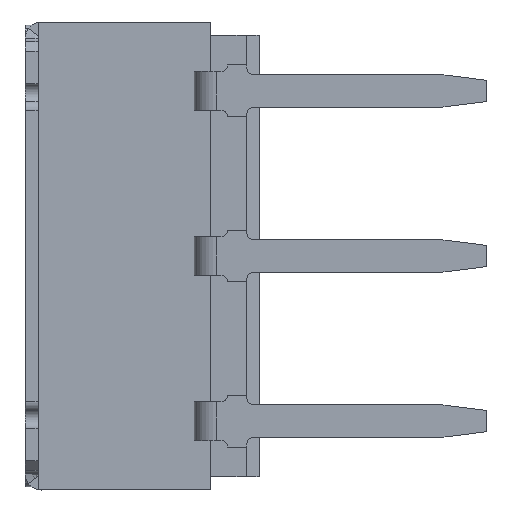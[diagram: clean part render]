
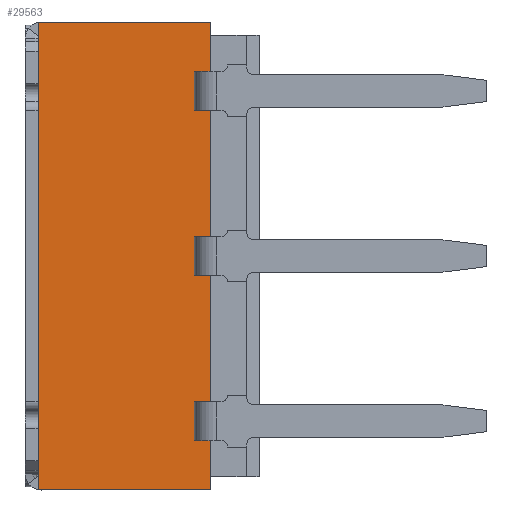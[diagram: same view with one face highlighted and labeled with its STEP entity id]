
A CAD part, left-side view. The second image highlights one B-rep face of the part: STEP entity #29563.
In plain terms, the highlighted planar face has unit normal (-1, 0, 0).
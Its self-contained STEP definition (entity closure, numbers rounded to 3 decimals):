
#110 = ORIENTED_EDGE ( 'NONE', *, *, #33861, .T. ) ;
#269 = CARTESIAN_POINT ( 'NONE',  ( -3.6, 1., -2.24 ) ) ;
#379 = CARTESIAN_POINT ( 'NONE',  ( -3.6, 1., -1.8 ) ) ;
#585 = CARTESIAN_POINT ( 'NONE',  ( -3.6, 0.75, -2.24 ) ) ;
#594 = DIRECTION ( 'NONE',  ( 0., 0., -1. ) ) ;
#2546 = VERTEX_POINT ( 'NONE', #9393 ) ;
#2648 = EDGE_LOOP ( 'NONE', ( #36279, #33815, #20111, #35382, #18026, #28236, #11735, #19723, #16446, #3330, #32899, #110, #3538, #23164, #2677, #14545 ) ) ;
#2677 = ORIENTED_EDGE ( 'NONE', *, *, #8112, .F. ) ;
#2823 = EDGE_CURVE ( 'NONE', #6166, #30579, #12902, .T. ) ;
#3185 = CARTESIAN_POINT ( 'NONE',  ( -3.6, 4.42, -3.6 ) ) ;
#3330 = ORIENTED_EDGE ( 'NONE', *, *, #7461, .T. ) ;
#3538 = ORIENTED_EDGE ( 'NONE', *, *, #2823, .F. ) ;
#3704 = LINE ( 'NONE', #20046, #33484 ) ;
#3772 = VECTOR ( 'NONE', #11943, 1000. ) ;
#4023 = LINE ( 'NONE', #14933, #35599 ) ;
#4171 = CARTESIAN_POINT ( 'NONE',  ( -3.6, 0.75, -3.6 ) ) ;
#4431 = CARTESIAN_POINT ( 'NONE',  ( -3.6, 3.4, 3.4 ) ) ;
#4963 = EDGE_CURVE ( 'NONE', #30320, #7170, #3704, .T. ) ;
#5022 = DIRECTION ( 'NONE',  ( 0., 0., -1. ) ) ;
#5363 = CARTESIAN_POINT ( 'NONE',  ( -3.6, 0., -2.84 ) ) ;
#5417 = CARTESIAN_POINT ( 'NONE',  ( -3.6, 4.42, 3.6 ) ) ;
#5536 = DIRECTION ( 'NONE',  ( 0., 0., -1. ) ) ;
#5885 = VECTOR ( 'NONE', #12683, 1000. ) ;
#6036 = DIRECTION ( 'NONE',  ( 0., -1., 0. ) ) ;
#6166 = VERTEX_POINT ( 'NONE', #28271 ) ;
#6664 = VECTOR ( 'NONE', #18500, 1000. ) ;
#6777 = DIRECTION ( 'NONE',  ( 0., -1., 0. ) ) ;
#6802 = EDGE_CURVE ( 'NONE', #27684, #29149, #36172, .T. ) ;
#7170 = VERTEX_POINT ( 'NONE', #27537 ) ;
#7414 = EDGE_CURVE ( 'NONE', #31772, #7170, #37065, .T. ) ;
#7461 = EDGE_CURVE ( 'NONE', #12146, #22779, #11256, .T. ) ;
#7533 = CARTESIAN_POINT ( 'NONE',  ( -3.6, 1., -2.84 ) ) ;
#7596 = CARTESIAN_POINT ( 'NONE',  ( -3.6, 3.4, 3.6 ) ) ;
#8112 = EDGE_CURVE ( 'NONE', #16851, #13673, #8127, .T. ) ;
#8127 = LINE ( 'NONE', #31117, #18939 ) ;
#8251 = DIRECTION ( 'NONE',  ( 0., 1., 0. ) ) ;
#8272 = LINE ( 'NONE', #12317, #3772 ) ;
#8298 = CARTESIAN_POINT ( 'NONE',  ( -3.6, 0.75, 3.4 ) ) ;
#9393 = CARTESIAN_POINT ( 'NONE',  ( -3.6, 1., 2.24 ) ) ;
#9416 = DIRECTION ( 'NONE',  ( 0., 1., 0. ) ) ;
#9766 = EDGE_CURVE ( 'NONE', #23992, #29149, #15202, .T. ) ;
#9792 = PLANE ( 'NONE',  #21974 ) ;
#9796 = CARTESIAN_POINT ( 'NONE',  ( -3.6, 0., -0.3 ) ) ;
#10014 = LINE ( 'NONE', #379, #34856 ) ;
#10815 = EDGE_CURVE ( 'NONE', #20706, #22779, #29111, .T. ) ;
#11256 = LINE ( 'NONE', #28973, #23529 ) ;
#11406 = CARTESIAN_POINT ( 'NONE',  ( -3.6, 0.75, 3.6 ) ) ;
#11735 = ORIENTED_EDGE ( 'NONE', *, *, #6802, .F. ) ;
#11894 = CARTESIAN_POINT ( 'NONE',  ( -3.6, 0.75, 3.4 ) ) ;
#11943 = DIRECTION ( 'NONE',  ( 0., 0., -1. ) ) ;
#12146 = VERTEX_POINT ( 'NONE', #269 ) ;
#12317 = CARTESIAN_POINT ( 'NONE',  ( -3.6, 1., 3.28 ) ) ;
#12683 = DIRECTION ( 'NONE',  ( 0., 1., 0. ) ) ;
#12685 = CARTESIAN_POINT ( 'NONE',  ( -3.6, 0., 3.4 ) ) ;
#12902 = LINE ( 'NONE', #16461, #31862 ) ;
#13176 = DIRECTION ( 'NONE',  ( 0., 0., -1. ) ) ;
#13673 = VERTEX_POINT ( 'NONE', #23996 ) ;
#14545 = ORIENTED_EDGE ( 'NONE', *, *, #26850, .T. ) ;
#14718 = EDGE_CURVE ( 'NONE', #6166, #13673, #4023, .T. ) ;
#14933 = CARTESIAN_POINT ( 'NONE',  ( -3.6, 0., 0.3 ) ) ;
#15202 = LINE ( 'NONE', #3185, #18355 ) ;
#15540 = CARTESIAN_POINT ( 'NONE',  ( -3.6, 0.75, -0.3 ) ) ;
#15541 = VECTOR ( 'NONE', #8251, 1000. ) ;
#16446 = ORIENTED_EDGE ( 'NONE', *, *, #19958, .F. ) ;
#16461 = CARTESIAN_POINT ( 'NONE',  ( -3.6, 1., 0.74 ) ) ;
#16851 = VERTEX_POINT ( 'NONE', #26141 ) ;
#17584 = VERTEX_POINT ( 'NONE', #7533 ) ;
#17711 = DIRECTION ( 'NONE',  ( 0., 0., -1. ) ) ;
#17856 = FACE_OUTER_BOUND ( 'NONE', #2648, .T. ) ;
#18026 = ORIENTED_EDGE ( 'NONE', *, *, #34931, .T. ) ;
#18029 = DIRECTION ( 'NONE',  ( 0., 0., -1. ) ) ;
#18168 = CARTESIAN_POINT ( 'NONE',  ( -3.6, 0.75, -2.84 ) ) ;
#18355 = VECTOR ( 'NONE', #22948, 1000. ) ;
#18500 = DIRECTION ( 'NONE',  ( 0., 1., 0. ) ) ;
#18939 = VECTOR ( 'NONE', #5022, 1000. ) ;
#19127 = LINE ( 'NONE', #5363, #15541 ) ;
#19723 = ORIENTED_EDGE ( 'NONE', *, *, #36053, .T. ) ;
#19958 = EDGE_CURVE ( 'NONE', #12146, #17584, #10014, .T. ) ;
#20046 = CARTESIAN_POINT ( 'NONE',  ( -3.6, 0., 2.84 ) ) ;
#20111 = ORIENTED_EDGE ( 'NONE', *, *, #7414, .F. ) ;
#20706 = VERTEX_POINT ( 'NONE', #15540 ) ;
#20972 = CARTESIAN_POINT ( 'NONE',  ( -3.6, 1., -0.3 ) ) ;
#21120 = DIRECTION ( 'NONE',  ( 0., -1., 0. ) ) ;
#21499 = VECTOR ( 'NONE', #33186, 1000. ) ;
#21712 = LINE ( 'NONE', #33131, #5885 ) ;
#21950 = VERTEX_POINT ( 'NONE', #7596 ) ;
#21974 = AXIS2_PLACEMENT_3D ( 'NONE', #12685, #26714, #9416 ) ;
#22391 = CARTESIAN_POINT ( 'NONE',  ( -3.6, 3.4, -3.6 ) ) ;
#22779 = VERTEX_POINT ( 'NONE', #585 ) ;
#22948 = DIRECTION ( 'NONE',  ( 0., -1., 0. ) ) ;
#23164 = ORIENTED_EDGE ( 'NONE', *, *, #14718, .T. ) ;
#23529 = VECTOR ( 'NONE', #6777, 1000. ) ;
#23992 = VERTEX_POINT ( 'NONE', #22391 ) ;
#23996 = CARTESIAN_POINT ( 'NONE',  ( -3.6, 0.75, 0.3 ) ) ;
#24440 = VECTOR ( 'NONE', #17711, 1000. ) ;
#25531 = VECTOR ( 'NONE', #6036, 1000. ) ;
#25819 = EDGE_CURVE ( 'NONE', #30320, #2546, #8272, .T. ) ;
#26141 = CARTESIAN_POINT ( 'NONE',  ( -3.6, 0.75, 2.24 ) ) ;
#26451 = LINE ( 'NONE', #4431, #21499 ) ;
#26593 = CARTESIAN_POINT ( 'NONE',  ( -3.6, 0.75, 3.4 ) ) ;
#26714 = DIRECTION ( 'NONE',  ( 1., 0., 0. ) ) ;
#26850 = EDGE_CURVE ( 'NONE', #16851, #2546, #21712, .T. ) ;
#27537 = CARTESIAN_POINT ( 'NONE',  ( -3.6, 0.75, 2.84 ) ) ;
#27684 = VERTEX_POINT ( 'NONE', #18168 ) ;
#27771 = VECTOR ( 'NONE', #5536, 1000. ) ;
#28042 = CARTESIAN_POINT ( 'NONE',  ( -3.6, 1., 2.84 ) ) ;
#28236 = ORIENTED_EDGE ( 'NONE', *, *, #9766, .T. ) ;
#28271 = CARTESIAN_POINT ( 'NONE',  ( -3.6, 1., 0.3 ) ) ;
#28973 = CARTESIAN_POINT ( 'NONE',  ( -3.6, 0., -2.24 ) ) ;
#29111 = LINE ( 'NONE', #8298, #27771 ) ;
#29149 = VERTEX_POINT ( 'NONE', #4171 ) ;
#29373 = EDGE_CURVE ( 'NONE', #21950, #31772, #31850, .T. ) ;
#29563 = ADVANCED_FACE ( 'NONE', ( #17856 ), #9792, .F. ) ;
#30320 = VERTEX_POINT ( 'NONE', #28042 ) ;
#30579 = VERTEX_POINT ( 'NONE', #20972 ) ;
#31117 = CARTESIAN_POINT ( 'NONE',  ( -3.6, 0.75, 3.4 ) ) ;
#31772 = VERTEX_POINT ( 'NONE', #11406 ) ;
#31850 = LINE ( 'NONE', #5417, #25531 ) ;
#31862 = VECTOR ( 'NONE', #13176, 1000. ) ;
#32391 = LINE ( 'NONE', #9796, #6664 ) ;
#32899 = ORIENTED_EDGE ( 'NONE', *, *, #10815, .F. ) ;
#33131 = CARTESIAN_POINT ( 'NONE',  ( -3.6, 0., 2.24 ) ) ;
#33186 = DIRECTION ( 'NONE',  ( 0., 0., -1. ) ) ;
#33484 = VECTOR ( 'NONE', #37091, 1000. ) ;
#33815 = ORIENTED_EDGE ( 'NONE', *, *, #4963, .T. ) ;
#33861 = EDGE_CURVE ( 'NONE', #20706, #30579, #32391, .T. ) ;
#34856 = VECTOR ( 'NONE', #18029, 1000. ) ;
#34931 = EDGE_CURVE ( 'NONE', #21950, #23992, #26451, .T. ) ;
#35382 = ORIENTED_EDGE ( 'NONE', *, *, #29373, .F. ) ;
#35599 = VECTOR ( 'NONE', #21120, 1000. ) ;
#36053 = EDGE_CURVE ( 'NONE', #27684, #17584, #19127, .T. ) ;
#36131 = VECTOR ( 'NONE', #594, 1000. ) ;
#36172 = LINE ( 'NONE', #11894, #24440 ) ;
#36279 = ORIENTED_EDGE ( 'NONE', *, *, #25819, .F. ) ;
#37065 = LINE ( 'NONE', #26593, #36131 ) ;
#37091 = DIRECTION ( 'NONE',  ( 0., -1., 0. ) ) ;
